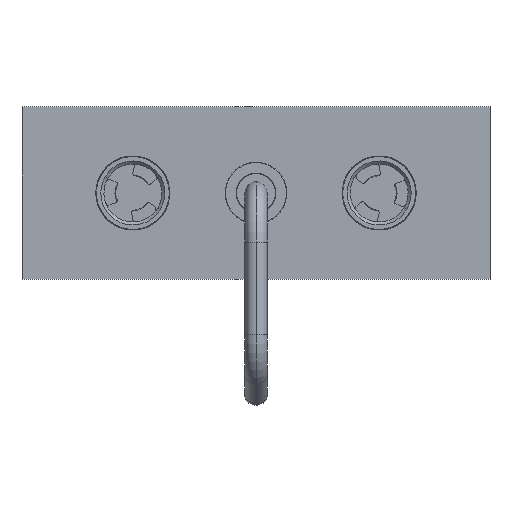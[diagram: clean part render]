
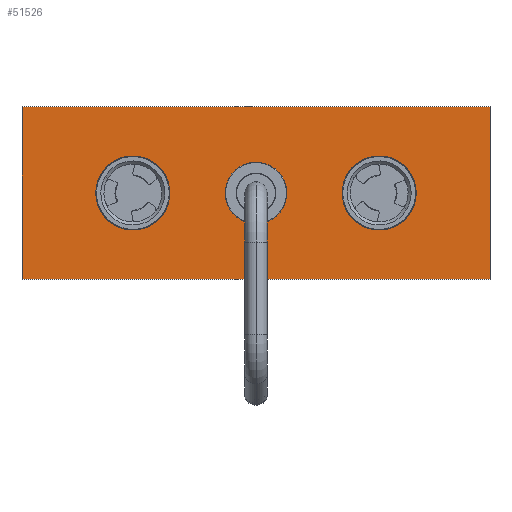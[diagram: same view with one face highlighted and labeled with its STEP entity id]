
A CAD part, top view. The second image highlights one B-rep face of the part: STEP entity #51526.
In plain terms, the highlighted planar face has unit normal (0, 0, 1).
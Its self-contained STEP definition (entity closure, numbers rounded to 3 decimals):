
#30 = CARTESIAN_POINT ( 'NONE',  ( -190., -70., 20. ) ) ;
#203 = DIRECTION ( 'NONE',  ( 1., 0., 0. ) ) ;
#615 = VERTEX_POINT ( 'NONE', #10774 ) ;
#1887 = CIRCLE ( 'NONE', #11378, 17.5 ) ;
#3309 = CARTESIAN_POINT ( 'NONE',  ( 100., 0., 20. ) ) ;
#3546 = EDGE_CURVE ( 'NONE', #615, #29287, #41180, .T. ) ;
#3696 = CARTESIAN_POINT ( 'NONE',  ( 117.5, 0., 20. ) ) ;
#4446 = AXIS2_PLACEMENT_3D ( 'NONE', #3309, #15547, #28150 ) ;
#5214 = EDGE_CURVE ( 'NONE', #28702, #30917, #24610, .T. ) ;
#5694 = VERTEX_POINT ( 'NONE', #20009 ) ;
#5982 = FACE_BOUND ( 'NONE', #51916, .T. ) ;
#6017 = CARTESIAN_POINT ( 'NONE',  ( 17.5, 0., 20. ) ) ;
#7883 = VERTEX_POINT ( 'NONE', #6017 ) ;
#8190 = ORIENTED_EDGE ( 'NONE', *, *, #22002, .F. ) ;
#8634 = ORIENTED_EDGE ( 'NONE', *, *, #5214, .F. ) ;
#8789 = VECTOR ( 'NONE', #24183, 1000. ) ;
#10774 = CARTESIAN_POINT ( 'NONE',  ( -190., 70., 20. ) ) ;
#11073 = AXIS2_PLACEMENT_3D ( 'NONE', #44199, #23297, #23121 ) ;
#11378 = AXIS2_PLACEMENT_3D ( 'NONE', #32708, #49246, #45026 ) ;
#11569 = DIRECTION ( 'NONE',  ( 0., 0., 1. ) ) ;
#11680 = ORIENTED_EDGE ( 'NONE', *, *, #31927, .F. ) ;
#15547 = DIRECTION ( 'NONE',  ( 0., 0., 1. ) ) ;
#15803 = FACE_BOUND ( 'NONE', #48739, .T. ) ;
#15809 = VECTOR ( 'NONE', #35130, 1000. ) ;
#16194 = ORIENTED_EDGE ( 'NONE', *, *, #37006, .T. ) ;
#16749 = ORIENTED_EDGE ( 'NONE', *, *, #43109, .F. ) ;
#16909 = EDGE_LOOP ( 'NONE', ( #48052, #32712 ) ) ;
#17081 = CARTESIAN_POINT ( 'NONE',  ( 190., -70., 20. ) ) ;
#17973 = VECTOR ( 'NONE', #54032, 1000. ) ;
#18705 = VERTEX_POINT ( 'NONE', #36562 ) ;
#18892 = EDGE_CURVE ( 'NONE', #21997, #615, #29043, .T. ) ;
#19052 = AXIS2_PLACEMENT_3D ( 'NONE', #53763, #11569, #32822 ) ;
#20009 = CARTESIAN_POINT ( 'NONE',  ( -82.5, 0., 20. ) ) ;
#21415 = DIRECTION ( 'NONE',  ( 0., 0., 1. ) ) ;
#21903 = VERTEX_POINT ( 'NONE', #44495 ) ;
#21997 = VERTEX_POINT ( 'NONE', #48520 ) ;
#22002 = EDGE_CURVE ( 'NONE', #30917, #28702, #1887, .T. ) ;
#22867 = CARTESIAN_POINT ( 'NONE',  ( 190., 70., 20. ) ) ;
#22995 = FACE_BOUND ( 'NONE', #16909, .T. ) ;
#23058 = DIRECTION ( 'NONE',  ( 1., 0., 0. ) ) ;
#23121 = DIRECTION ( 'NONE',  ( 1., 0., 0. ) ) ;
#23297 = DIRECTION ( 'NONE',  ( 0., 0., 1. ) ) ;
#23478 = CIRCLE ( 'NONE', #28119, 17.5 ) ;
#24002 = CARTESIAN_POINT ( 'NONE',  ( -190., -70., 20. ) ) ;
#24183 = DIRECTION ( 'NONE',  ( 1., 0., 0. ) ) ;
#24610 = CIRCLE ( 'NONE', #4446, 17.5 ) ;
#25582 = PLANE ( 'NONE',  #44342 ) ;
#26153 = CARTESIAN_POINT ( 'NONE',  ( -190., 70., 20. ) ) ;
#28119 = AXIS2_PLACEMENT_3D ( 'NONE', #50735, #21415, #29607 ) ;
#28150 = DIRECTION ( 'NONE',  ( 1., 0., 0. ) ) ;
#28702 = VERTEX_POINT ( 'NONE', #40827 ) ;
#29043 = LINE ( 'NONE', #50143, #17973 ) ;
#29287 = VERTEX_POINT ( 'NONE', #49947 ) ;
#29607 = DIRECTION ( 'NONE',  ( 1., 0., 0. ) ) ;
#30917 = VERTEX_POINT ( 'NONE', #3696 ) ;
#31275 = ORIENTED_EDGE ( 'NONE', *, *, #3546, .T. ) ;
#31927 = EDGE_CURVE ( 'NONE', #5694, #18705, #35499, .T. ) ;
#32492 = EDGE_CURVE ( 'NONE', #36794, #21997, #33496, .T. ) ;
#32708 = CARTESIAN_POINT ( 'NONE',  ( 100., 0., 20. ) ) ;
#32712 = ORIENTED_EDGE ( 'NONE', *, *, #40837, .F. ) ;
#32822 = DIRECTION ( 'NONE',  ( 1., 0., 0. ) ) ;
#33496 = LINE ( 'NONE', #22867, #15809 ) ;
#35130 = DIRECTION ( 'NONE',  ( 0., 1., 0. ) ) ;
#35499 = CIRCLE ( 'NONE', #11073, 17.5 ) ;
#36562 = CARTESIAN_POINT ( 'NONE',  ( -117.5, 0., 20. ) ) ;
#36794 = VERTEX_POINT ( 'NONE', #17081 ) ;
#37006 = EDGE_CURVE ( 'NONE', #29287, #36794, #46834, .T. ) ;
#38427 = EDGE_LOOP ( 'NONE', ( #31275, #16194, #41041, #49340 ) ) ;
#38718 = CIRCLE ( 'NONE', #47547, 17.5 ) ;
#39061 = EDGE_CURVE ( 'NONE', #21903, #7883, #43359, .T. ) ;
#39915 = DIRECTION ( 'NONE',  ( 0., 0., 1. ) ) ;
#40827 = CARTESIAN_POINT ( 'NONE',  ( 82.5, 0., 20. ) ) ;
#40837 = EDGE_CURVE ( 'NONE', #7883, #21903, #23478, .T. ) ;
#41041 = ORIENTED_EDGE ( 'NONE', *, *, #32492, .T. ) ;
#41180 = LINE ( 'NONE', #26153, #42505 ) ;
#41769 = DIRECTION ( 'NONE',  ( 0., -1., 0. ) ) ;
#42505 = VECTOR ( 'NONE', #41769, 1000. ) ;
#43109 = EDGE_CURVE ( 'NONE', #18705, #5694, #38718, .T. ) ;
#43359 = CIRCLE ( 'NONE', #19052, 17.5 ) ;
#44199 = CARTESIAN_POINT ( 'NONE',  ( -100., 0., 20. ) ) ;
#44342 = AXIS2_PLACEMENT_3D ( 'NONE', #30, #50019, #203 ) ;
#44495 = CARTESIAN_POINT ( 'NONE',  ( -17.5, 0., 20. ) ) ;
#45026 = DIRECTION ( 'NONE',  ( 1., 0., 0. ) ) ;
#45302 = FACE_OUTER_BOUND ( 'NONE', #38427, .T. ) ;
#46834 = LINE ( 'NONE', #24002, #8789 ) ;
#47547 = AXIS2_PLACEMENT_3D ( 'NONE', #48892, #39915, #23058 ) ;
#48052 = ORIENTED_EDGE ( 'NONE', *, *, #39061, .F. ) ;
#48520 = CARTESIAN_POINT ( 'NONE',  ( 190., 70., 20. ) ) ;
#48739 = EDGE_LOOP ( 'NONE', ( #8634, #8190 ) ) ;
#48892 = CARTESIAN_POINT ( 'NONE',  ( -100., 0., 20. ) ) ;
#49246 = DIRECTION ( 'NONE',  ( 0., 0., 1. ) ) ;
#49340 = ORIENTED_EDGE ( 'NONE', *, *, #18892, .T. ) ;
#49947 = CARTESIAN_POINT ( 'NONE',  ( -190., -70., 20. ) ) ;
#50019 = DIRECTION ( 'NONE',  ( 0., 0., 1. ) ) ;
#50143 = CARTESIAN_POINT ( 'NONE',  ( -190., 70., 20. ) ) ;
#50735 = CARTESIAN_POINT ( 'NONE',  ( 0., 0., 20. ) ) ;
#51526 = ADVANCED_FACE ( 'NONE', ( #5982, #15803, #22995, #45302 ), #25582, .T. ) ;
#51916 = EDGE_LOOP ( 'NONE', ( #16749, #11680 ) ) ;
#53763 = CARTESIAN_POINT ( 'NONE',  ( 0., 0., 20. ) ) ;
#54032 = DIRECTION ( 'NONE',  ( -1., 0., 0. ) ) ;
